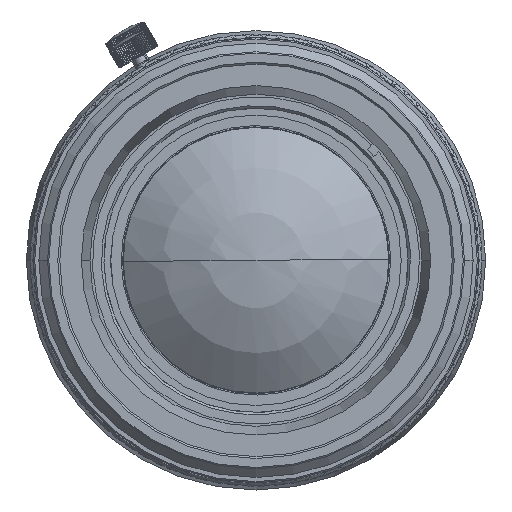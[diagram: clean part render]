
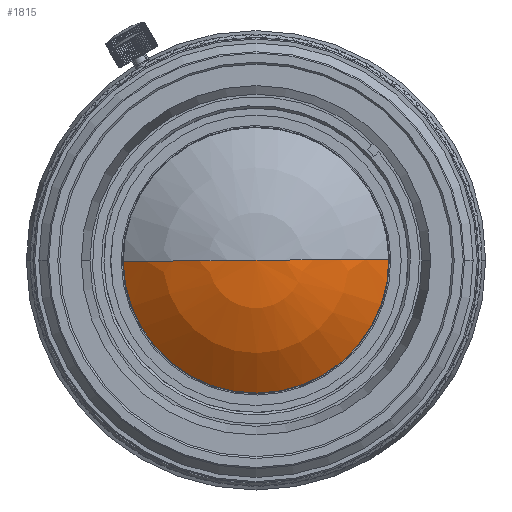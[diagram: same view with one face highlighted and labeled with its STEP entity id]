
A CAD part, left-side view. The second image highlights one B-rep face of the part: STEP entity #1815.
In plain terms, the highlighted spherical face has radius 31.668 mm.
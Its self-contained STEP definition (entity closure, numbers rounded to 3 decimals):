
#1750=CARTESIAN_POINT('',(-113.612,0.,0.));
#1751=DIRECTION('',(-1.,0.,0.));
#1752=DIRECTION('',(0.,1.,0.));
#1753=AXIS2_PLACEMENT_3D('',#1750,#1751,#1752);
#1758=CARTESIAN_POINT('',(-89.644,0.,0.));
#1759=DIRECTION('',(0.,0.,-1.));
#1760=DIRECTION('',(-1.,0.,0.));
#1761=AXIS2_PLACEMENT_3D('',#1758,#1759,#1760);
#1766=CARTESIAN_POINT('',(-89.644,0.,0.));
#1767=DIRECTION('',(0.,0.,1.));
#1768=DIRECTION('',(-1.,0.,0.));
#1769=AXIS2_PLACEMENT_3D('',#1766,#1767,#1768);
#1774=CARTESIAN_POINT('',(-113.612,-20.698,
0.));
#1775=CARTESIAN_POINT('',(-113.612,20.698,0.));
#1776=VERTEX_POINT('',#1774);
#1777=VERTEX_POINT('',#1775);
#1778=CARTESIAN_POINT('',(-121.312,0.,0.));
#1779=VERTEX_POINT('',#1778);
#1805=CARTESIAN_POINT('',(-89.644,0.,0.));
#1806=DIRECTION('',(-1.,0.,0.));
#1807=DIRECTION('',(0.,1.,0.));
#1808=AXIS2_PLACEMENT_3D('',#1805,#1806,#1807);
#1809=SPHERICAL_SURFACE('',#1808,31.668);
#1810=ORIENTED_EDGE('',*,*,#1800,.F.);
#1811=ORIENTED_EDGE('',*,*,#1789,.F.);
#1812=ORIENTED_EDGE('',*,*,#1787,.T.);
#1813=EDGE_LOOP('',(#1810,#1811,#1812));
#1814=FACE_OUTER_BOUND('',#1813,.F.);
#1754=CIRCLE('',#1753,20.698);
#1762=CIRCLE('',#1761,31.668);
#1770=CIRCLE('',#1769,31.668);
#1787=EDGE_CURVE('',#1779,#1776,#1770,.T.);
#1789=EDGE_CURVE('',#1779,#1777,#1762,.T.);
#1800=EDGE_CURVE('',#1777,#1776,#1754,.T.);
#1815=ADVANCED_FACE('',(#1814),#1809,.T.);
